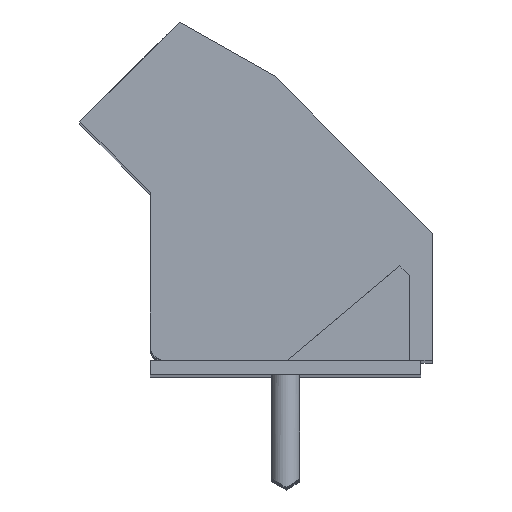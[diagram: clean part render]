
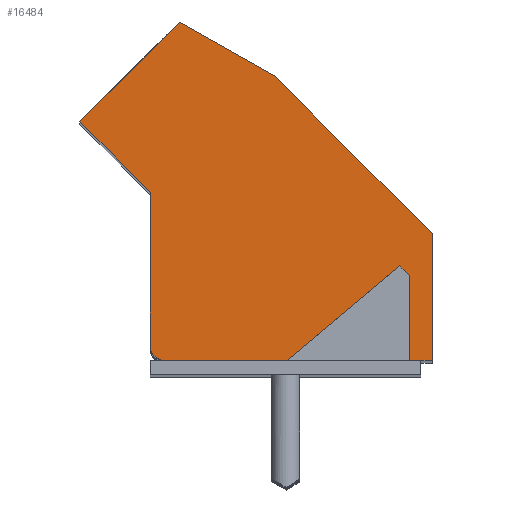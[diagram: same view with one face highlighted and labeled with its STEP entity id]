
A CAD part, top view. The second image highlights one B-rep face of the part: STEP entity #16484.
In plain terms, the highlighted planar face has unit normal (0, 0, 1).
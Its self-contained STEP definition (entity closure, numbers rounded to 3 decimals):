
#15671 = VERTEX_POINT ( 'NONE', #39000 ) ;
#15673 = EDGE_CURVE ( 'NONE', #15671, #15674, #39488, .T. ) ;
#15674 = VERTEX_POINT ( 'NONE', #39990 ) ;
#15804 = VERTEX_POINT ( 'NONE', #40707 ) ;
#15808 = VERTEX_POINT ( 'NONE', #40702 ) ;
#15839 = EDGE_CURVE ( 'NONE', #15854, #15869, #40789, .T. ) ;
#15852 = EDGE_CURVE ( 'NONE', #15853, #15854, #40826, .T. ) ;
#15853 = VERTEX_POINT ( 'NONE', #40822 ) ;
#15854 = VERTEX_POINT ( 'NONE', #40821 ) ;
#15864 = EDGE_CURVE ( 'NONE', #15804, #15808, #40870, .T. ) ;
#15868 = EDGE_CURVE ( 'NONE', #15869, #15870, #40860, .T. ) ;
#15869 = VERTEX_POINT ( 'NONE', #40856 ) ;
#15870 = VERTEX_POINT ( 'NONE', #40855 ) ;
#16187 = VERTEX_POINT ( 'NONE', #41301 ) ;
#16189 = EDGE_CURVE ( 'NONE', #15671, #16187, #40533, .T. ) ;
#16275 = VERTEX_POINT ( 'NONE', #41367 ) ;
#16277 = EDGE_CURVE ( 'NONE', #15808, #16275, #41366, .T. ) ;
#16392 = VERTEX_POINT ( 'NONE', #41443 ) ;
#16395 = EDGE_CURVE ( 'NONE', #16187, #16392, #41440, .T. ) ;
#16401 = EDGE_CURVE ( 'NONE', #16417, #15674, #41492, .T. ) ;
#16417 = VERTEX_POINT ( 'NONE', #41468 ) ;
#16419 = EDGE_CURVE ( 'NONE', #16275, #16417, #41532, .T. ) ;
#16470 = ORIENTED_EDGE ( 'NONE', *, *, #15864, .T. ) ;
#16471 = ORIENTED_EDGE ( 'NONE', *, *, #16277, .T. ) ;
#16472 = ORIENTED_EDGE ( 'NONE', *, *, #16419, .T. ) ;
#16473 = ORIENTED_EDGE ( 'NONE', *, *, #16401, .T. ) ;
#16474 = ORIENTED_EDGE ( 'NONE', *, *, #15673, .F. ) ;
#16475 = ORIENTED_EDGE ( 'NONE', *, *, #16189, .T. ) ;
#16476 = ORIENTED_EDGE ( 'NONE', *, *, #16395, .T. ) ;
#16477 = ORIENTED_EDGE ( 'NONE', *, *, #16478, .T. ) ;
#16478 = EDGE_CURVE ( 'NONE', #16392, #15853, #41534, .T. ) ;
#16484 = ADVANCED_FACE ( 'NONE', ( #41587 ), #41586, .T. ) ;
#16485 = EDGE_LOOP ( 'NONE', ( #16486, #16487, #16488, #16489, #16492, #16470, #16471, #16472, #16473, #16474, #16475, #16476, #16477 ) ) ;
#16486 = ORIENTED_EDGE ( 'NONE', *, *, #15852, .T. ) ;
#16487 = ORIENTED_EDGE ( 'NONE', *, *, #15839, .T. ) ;
#16488 = ORIENTED_EDGE ( 'NONE', *, *, #15868, .T. ) ;
#16489 = ORIENTED_EDGE ( 'NONE', *, *, #16490, .T. ) ;
#16490 = EDGE_CURVE ( 'NONE', #15870, #16491, #41578, .T. ) ;
#16491 = VERTEX_POINT ( 'NONE', #41574 ) ;
#16492 = ORIENTED_EDGE ( 'NONE', *, *, #16493, .T. ) ;
#16493 = EDGE_CURVE ( 'NONE', #16491, #15804, #41573, .T. ) ;
#39000 = CARTESIAN_POINT ( 'NONE',  ( 0., 5.907, 0. ) ) ;
#39488 = CIRCLE ( 'NONE', #39502, 0.1 ) ;
#39497 = DIRECTION ( 'NONE',  ( 1., 0., 0. ) ) ;
#39499 = DIRECTION ( 'NONE',  ( 0., 0., 1. ) ) ;
#39500 = CARTESIAN_POINT ( 'NONE',  ( -0.1, 5.907, 0. ) ) ;
#39502 = AXIS2_PLACEMENT_3D ( 'NONE', #39500, #39499, #39497 ) ;
#39503 = DIRECTION ( 'NONE',  ( 0., -1., 0. ) ) ;
#39990 = CARTESIAN_POINT ( 'NONE',  ( -0.029, 5.978, 0. ) ) ;
#40529 = VECTOR ( 'NONE', #39503, 1000. ) ;
#40531 = CARTESIAN_POINT ( 'NONE',  ( 0., 6.02, 0. ) ) ;
#40533 = LINE ( 'NONE', #40531, #40529 ) ;
#40702 = CARTESIAN_POINT ( 'NONE',  ( 4.411, 10.073, 0. ) ) ;
#40707 = CARTESIAN_POINT ( 'NONE',  ( 10., 4.484, 0. ) ) ;
#40786 = DIRECTION ( 'NONE',  ( 0.707, -0.707, 0. ) ) ;
#40787 = VECTOR ( 'NONE', #40786, 1000. ) ;
#40788 = CARTESIAN_POINT ( 'NONE',  ( 8.85, 3.334, 0. ) ) ;
#40789 = LINE ( 'NONE', #40788, #40787 ) ;
#40821 = CARTESIAN_POINT ( 'NONE',  ( 8.85, 3.334, 0. ) ) ;
#40822 = CARTESIAN_POINT ( 'NONE',  ( 4.858, -0.016, 0. ) ) ;
#40823 = DIRECTION ( 'NONE',  ( 0.766, 0.643, 0. ) ) ;
#40824 = VECTOR ( 'NONE', #40823, 1000. ) ;
#40825 = CARTESIAN_POINT ( 'NONE',  ( 4.858, -0.016, 0. ) ) ;
#40826 = LINE ( 'NONE', #40825, #40824 ) ;
#40855 = CARTESIAN_POINT ( 'NONE',  ( 9.2, -0.016, 0. ) ) ;
#40856 = CARTESIAN_POINT ( 'NONE',  ( 9.2, 2.984, 0. ) ) ;
#40857 = DIRECTION ( 'NONE',  ( 0., -1., 0. ) ) ;
#40858 = VECTOR ( 'NONE', #40857, 1000. ) ;
#40859 = CARTESIAN_POINT ( 'NONE',  ( 9.2, 6.02, 0. ) ) ;
#40860 = LINE ( 'NONE', #40859, #40858 ) ;
#40867 = DIRECTION ( 'NONE',  ( -0.707, 0.707, 0. ) ) ;
#40868 = VECTOR ( 'NONE', #40867, 1000. ) ;
#40869 = CARTESIAN_POINT ( 'NONE',  ( 10., 4.484, 0. ) ) ;
#40870 = LINE ( 'NONE', #40869, #40868 ) ;
#41301 = CARTESIAN_POINT ( 'NONE',  ( 0., 0.484, 0. ) ) ;
#41364 = VECTOR ( 'NONE', #41435, 1000. ) ;
#41365 = CARTESIAN_POINT ( 'NONE',  ( 4.411, 10.073, 0. ) ) ;
#41366 = LINE ( 'NONE', #41365, #41364 ) ;
#41367 = CARTESIAN_POINT ( 'NONE',  ( 1.036, 11.984, 0. ) ) ;
#41435 = DIRECTION ( 'NONE',  ( -0.87, 0.493, 0. ) ) ;
#41436 = DIRECTION ( 'NONE',  ( -1., 0., 0. ) ) ;
#41437 = DIRECTION ( 'NONE',  ( 0., 0., 1. ) ) ;
#41438 = CARTESIAN_POINT ( 'NONE',  ( 0.5, 0.484, 0. ) ) ;
#41439 = AXIS2_PLACEMENT_3D ( 'NONE', #41438, #41437, #41436 ) ;
#41440 = CIRCLE ( 'NONE', #41439, 0.5 ) ;
#41443 = CARTESIAN_POINT ( 'NONE',  ( 0.5, -0.016, 0. ) ) ;
#41468 = CARTESIAN_POINT ( 'NONE',  ( -2.5, 8.448, 0. ) ) ;
#41489 = DIRECTION ( 'NONE',  ( 0.707, -0.707, 0. ) ) ;
#41490 = VECTOR ( 'NONE', #41489, 1000. ) ;
#41491 = CARTESIAN_POINT ( 'NONE',  ( -2.5, 8.448, 0. ) ) ;
#41492 = LINE ( 'NONE', #41491, #41490 ) ;
#41529 = DIRECTION ( 'NONE',  ( -0.707, -0.707, 0. ) ) ;
#41530 = VECTOR ( 'NONE', #41529, 1000. ) ;
#41531 = CARTESIAN_POINT ( 'NONE',  ( 1.036, 11.984, 0. ) ) ;
#41532 = LINE ( 'NONE', #41531, #41530 ) ;
#41533 = CARTESIAN_POINT ( 'NONE',  ( 5.25, -0.016, 0. ) ) ;
#41534 = LINE ( 'NONE', #41533, #41601 ) ;
#41570 = DIRECTION ( 'NONE',  ( 0., 1., 0. ) ) ;
#41571 = VECTOR ( 'NONE', #41570, 1000. ) ;
#41572 = CARTESIAN_POINT ( 'NONE',  ( 10., 2.234, 0. ) ) ;
#41573 = LINE ( 'NONE', #41572, #41571 ) ;
#41574 = CARTESIAN_POINT ( 'NONE',  ( 10., -0.016, 0. ) ) ;
#41575 = DIRECTION ( 'NONE',  ( 1., 0., 0. ) ) ;
#41576 = VECTOR ( 'NONE', #41575, 1000. ) ;
#41577 = CARTESIAN_POINT ( 'NONE',  ( 3.713, -0.016, 0. ) ) ;
#41578 = LINE ( 'NONE', #41577, #41576 ) ;
#41581 = DIRECTION ( 'NONE',  ( 1., 0., 0. ) ) ;
#41583 = DIRECTION ( 'NONE',  ( 0., 0., 1. ) ) ;
#41584 = CARTESIAN_POINT ( 'NONE',  ( -2.575, -0.016, 0. ) ) ;
#41585 = AXIS2_PLACEMENT_3D ( 'NONE', #41584, #41583, #41581 ) ;
#41586 = PLANE ( 'NONE',  #41585 ) ;
#41587 = FACE_OUTER_BOUND ( 'NONE', #16485, .T. ) ;
#41600 = DIRECTION ( 'NONE',  ( 1., 0., 0. ) ) ;
#41601 = VECTOR ( 'NONE', #41600, 1000. ) ;
